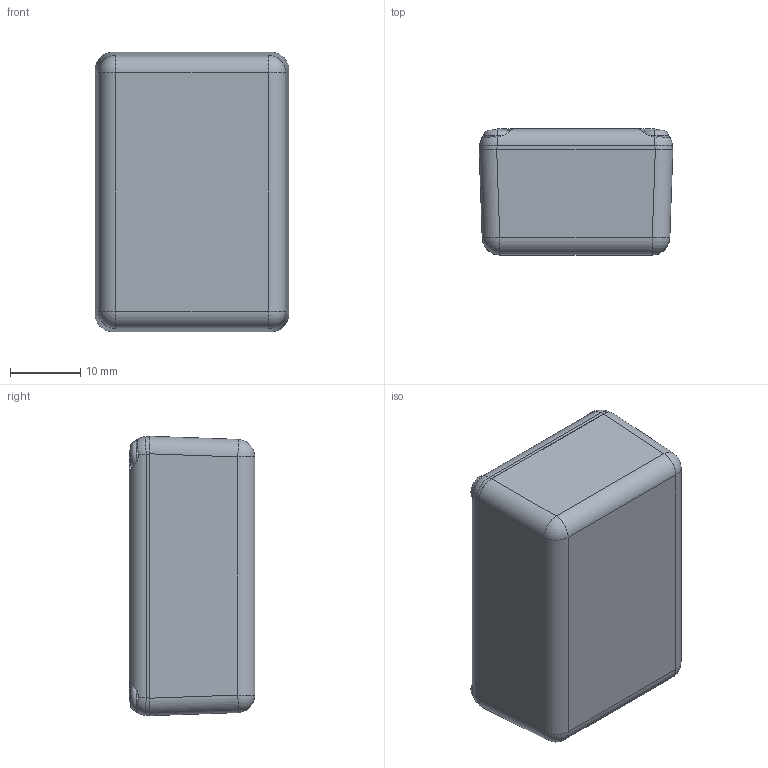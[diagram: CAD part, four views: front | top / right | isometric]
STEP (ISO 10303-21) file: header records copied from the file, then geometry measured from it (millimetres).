
FILE_DESCRIPTION (( 'STEP AP214' ), '1' );
FILE_NAME ('BMC-206.STEP', '2021-03-26T04:17:51', ( '' ), ( '' ), 'SwSTEP 2.0', 'SolidWorks 2016', '' );
FILE_SCHEMA (( 'AUTOMOTIVE_DESIGN' ));
Length unit declared in the file: millimetre
Products named in the file (4): BMC Screw; BMC-206; BMC-206 Bottom; BMC-206 Top
Assembly tree (6 placements, depth 2):
  BMC-206
    BMC-206 Bottom
    BMC-206 Top
    BMC Screw  x4
Bounding box: 27.6 x 17.9 x 39.8 mm (x, y, z)
Volume: 6556.8 mm3; surface area: 9055.6 mm2
Topology: 6 solids, 6 shells, 910 faces, 2413 edges, 1596 vertices
Faces by surface type: plane 472, bspline 326, cylinder 56, cone 40, sphere 8, torus 8
Entity records: 40253 total; most frequent: CARTESIAN_POINT 22359, ORIENTED_EDGE 4254, DIRECTION 2545, EDGE_CURVE 2127, VERTEX_POINT 1410, VECTOR 1289, LINE 1289, EDGE_LOOP 883
